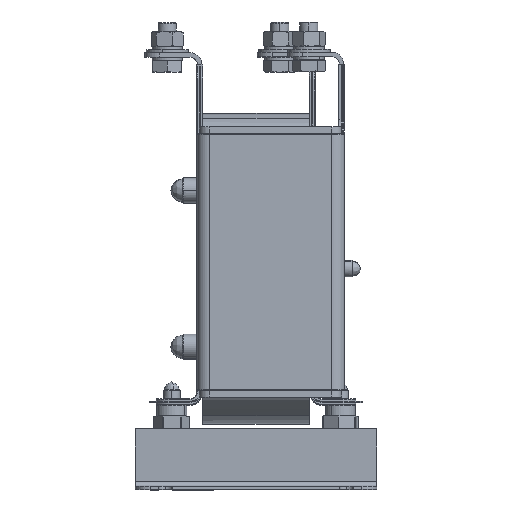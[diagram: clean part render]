
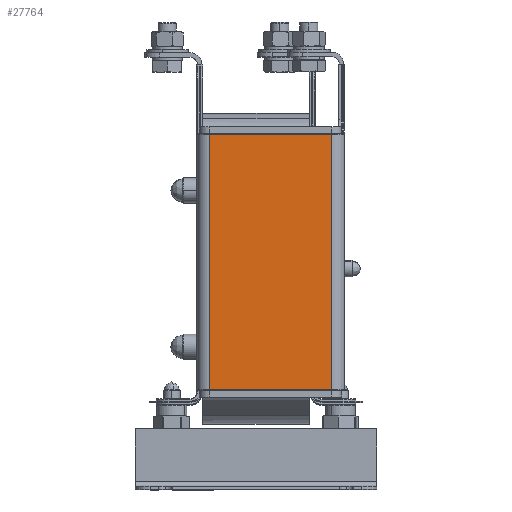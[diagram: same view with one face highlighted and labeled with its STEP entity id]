
A CAD part, top view. The second image highlights one B-rep face of the part: STEP entity #27764.
In plain terms, the highlighted planar face has unit normal (0, 0, 1).
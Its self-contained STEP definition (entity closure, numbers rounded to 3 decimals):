
#1286 = CARTESIAN_POINT ( 'NONE',  ( 118.75, 233.1, -20.1 ) ) ;
#2009 = AXIS2_PLACEMENT_3D ( 'NONE', #13943, #29670, #43492 ) ;
#3568 = PLANE ( 'NONE',  #2009 ) ;
#3828 = VERTEX_POINT ( 'NONE', #44274 ) ;
#4347 = ORIENTED_EDGE ( 'NONE', *, *, #16534, .T. ) ;
#6362 = ORIENTED_EDGE ( 'NONE', *, *, #37084, .T. ) ;
#6579 = LINE ( 'NONE', #31957, #36088 ) ;
#8270 = VECTOR ( 'NONE', #36418, 1000. ) ;
#10746 = CARTESIAN_POINT ( 'NONE',  ( 130.05, 63.7, -20.1 ) ) ;
#13572 = LINE ( 'NONE', #20849, #20653 ) ;
#13943 = CARTESIAN_POINT ( 'NONE',  ( 118.75, 148.4, -20.1 ) ) ;
#14096 = CARTESIAN_POINT ( 'NONE',  ( 49.25, 233.1, -20.1 ) ) ;
#16534 = EDGE_CURVE ( 'NONE', #3828, #16548, #35932, .T. ) ;
#16548 = VERTEX_POINT ( 'NONE', #33968 ) ;
#16959 = EDGE_CURVE ( 'NONE', #28638, #16548, #13572, .T. ) ;
#18235 = ORIENTED_EDGE ( 'NONE', *, *, #37008, .T. ) ;
#20653 = VECTOR ( 'NONE', #25198, 1000. ) ;
#20849 = CARTESIAN_POINT ( 'NONE',  ( 130.05, 232.9, -20.1 ) ) ;
#22935 = VECTOR ( 'NONE', #41690, 1000. ) ;
#24796 = ORIENTED_EDGE ( 'NONE', *, *, #16959, .F. ) ;
#25198 = DIRECTION ( 'NONE',  ( 0., -1., 0. ) ) ;
#26930 = LINE ( 'NONE', #1286, #22935 ) ;
#27764 = ADVANCED_FACE ( 'NONE', ( #43979 ), #3568, .F. ) ;
#28638 = VERTEX_POINT ( 'NONE', #37511 ) ;
#29670 = DIRECTION ( 'NONE',  ( 0., 0., -1. ) ) ;
#31957 = CARTESIAN_POINT ( 'NONE',  ( 49.25, 148.4, -20.1 ) ) ;
#33968 = CARTESIAN_POINT ( 'NONE',  ( 130.05, 63.7, -20.1 ) ) ;
#35932 = LINE ( 'NONE', #10746, #8270 ) ;
#36088 = VECTOR ( 'NONE', #42868, 1000. ) ;
#36418 = DIRECTION ( 'NONE',  ( 1., 0., 0. ) ) ;
#36711 = VERTEX_POINT ( 'NONE', #14096 ) ;
#37008 = EDGE_CURVE ( 'NONE', #28638, #36711, #26930, .T. ) ;
#37084 = EDGE_CURVE ( 'NONE', #36711, #3828, #6579, .T. ) ;
#37511 = CARTESIAN_POINT ( 'NONE',  ( 130.05, 233.1, -20.1 ) ) ;
#40409 = EDGE_LOOP ( 'NONE', ( #24796, #18235, #6362, #4347 ) ) ;
#41690 = DIRECTION ( 'NONE',  ( -1., 0., 0. ) ) ;
#42868 = DIRECTION ( 'NONE',  ( 0., -1., 0. ) ) ;
#43492 = DIRECTION ( 'NONE',  ( 1., 0., 0. ) ) ;
#43979 = FACE_OUTER_BOUND ( 'NONE', #40409, .T. ) ;
#44274 = CARTESIAN_POINT ( 'NONE',  ( 49.25, 63.7, -20.1 ) ) ;
